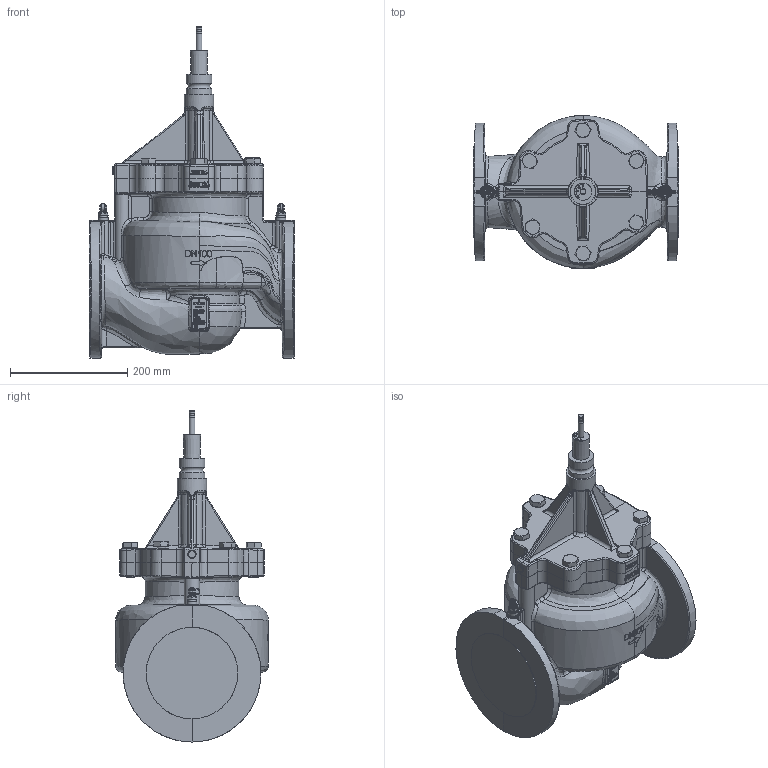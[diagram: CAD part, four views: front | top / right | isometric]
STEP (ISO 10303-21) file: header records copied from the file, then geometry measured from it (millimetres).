
FILE_DESCRIPTION(/* description */ ('Dansk beskrivelse'),/* implementation_level */ '2;1');
FILE_NAME(/* name */ 'C:\Users\jjo\Desktop\Siemens Cad modeller\53-4000 & 53-4005.stp',/* time_stamp */ '2015-05-05T13:47:03+02:00',/* author */ ('jjo'),/* organization */ (''),/* preprocessor_version */ 'ST-DEVELOPER v15.2',/* originating_system */ 'Autodesk Inventor 2014',/* authorisation */ '0 mm^3');
FILE_SCHEMA (('AUTOMOTIVE_DESIGN { 1 0 10303 214 3 1 1 }'));
Products named in the file (1): 53-4000_Shrinkwrap_1
Bounding box: 350 x 262 x 566 mm (x, y, z)
Volume: 14073147.1 mm3; surface area: 593889.9 mm2
Topology: 1 solids, 1 shells, 3071 faces, 8225 edges, 5288 vertices
Faces by surface type: plane 1437, bspline 1045, cylinder 401, cone 153, sphere 25, torus 10
Full cylindrical faces by diameter (mm): 2.9 x2, 5 x2, 7 x1, 8.3 x2, 9.728 x2, 10 x2, 11 x2, 11.5 x2, 14 x1, 16 x8, 17 x4, 19 x2, 22.49 x6, 44 x2, 50 x1, 156 x2
Entity records: 140779 total; most frequent: CARTESIAN_POINT 69712, ORIENTED_EDGE 16182, DIRECTION 10768, EDGE_CURVE 8087, VERTEX_POINT 5264, LINE 3984, VECTOR 3984, AXIS2_PLACEMENT_3D 3392
